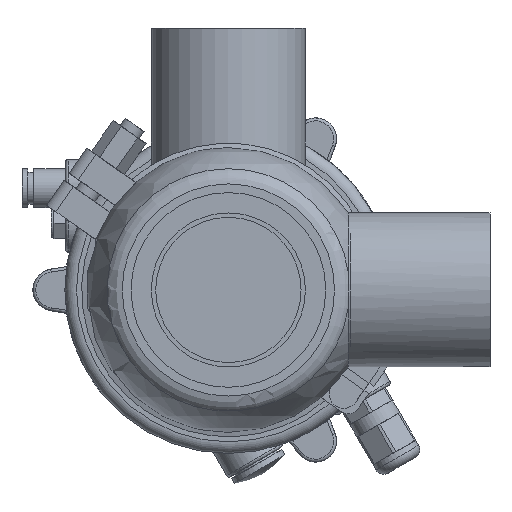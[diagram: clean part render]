
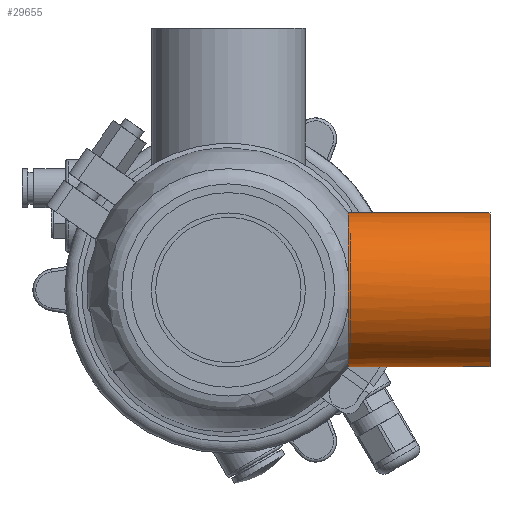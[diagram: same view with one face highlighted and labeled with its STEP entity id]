
A CAD part, front view. The second image highlights one B-rep face of the part: STEP entity #29655.
In plain terms, the highlighted cylindrical face has radius 26.5 mm (diameter 53 mm), a full revolution.
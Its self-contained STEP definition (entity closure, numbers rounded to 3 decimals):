
#2941 = EDGE_CURVE ( 'NONE', #27011, #25736, #60740, .T. ) ;
#3994 = CARTESIAN_POINT ( 'NONE',  ( 41.162, -26.42, -2.131 ) ) ;
#8731 = ORIENTED_EDGE ( 'NONE', *, *, #2941, .T. ) ;
#13058 = DIRECTION ( 'NONE',  ( 1., 0., 0. ) ) ;
#13508 = CARTESIAN_POINT ( 'NONE',  ( 41.148, -26.499, 1.097 ) ) ;
#14793 = EDGE_LOOP ( 'NONE', ( #42284 ) ) ;
#15158 = AXIS2_PLACEMENT_3D ( 'NONE', #42674, #57294, #23721 ) ;
#18135 = CARTESIAN_POINT ( 'NONE',  ( 41.216, -25.714, 6.407 ) ) ;
#18396 = CARTESIAN_POINT ( 'NONE',  ( 0., 0., 0. ) ) ;
#18683 = CYLINDRICAL_SURFACE ( 'NONE', #34804, 26.5 ) ;
#18991 = DIRECTION ( 'NONE',  ( -1., 0., 0. ) ) ;
#21158 = EDGE_CURVE ( 'NONE', #40013, #40013, #26054, .T. ) ;
#22440 = B_SPLINE_CURVE_WITH_KNOTS ( 'NONE', 3,
 ( #18135, #28375, #32721, #23671, #13508, #33325, #28062, #3994, #37356, #56321, #32415, #60383 ),
 .UNSPECIFIED., .F., .F.,
 ( 4, 2, 2, 2, 2, 4 ),
 ( 0., 0.003, 0.006, 0.008, 0.01, 0.013 ),
 .UNSPECIFIED. ) ;
#23671 = CARTESIAN_POINT ( 'NONE',  ( 41.162, -26.433, 2.166 ) ) ;
#23721 = DIRECTION ( 'NONE',  ( 0., 0., 1. ) ) ;
#25736 = VERTEX_POINT ( 'NONE', #46788 ) ;
#26054 = CIRCLE ( 'NONE', #15158, 26.5 ) ;
#27011 = VERTEX_POINT ( 'NONE', #32645 ) ;
#28062 = CARTESIAN_POINT ( 'NONE',  ( 41.151, -26.485, -1.052 ) ) ;
#28375 = CARTESIAN_POINT ( 'NONE',  ( 41.216, -25.976, 5.353 ) ) ;
#28929 = DIRECTION ( 'NONE',  ( 0., 0., 1. ) ) ;
#29655 = ADVANCED_FACE ( 'NONE', ( #41976, #60949 ), #18683, .T. ) ;
#32415 = CARTESIAN_POINT ( 'NONE',  ( 41.216, -25.976, -5.353 ) ) ;
#32645 = CARTESIAN_POINT ( 'NONE',  ( 41.216, -25.714, -6.407 ) ) ;
#32721 = CARTESIAN_POINT ( 'NONE',  ( 41.196, -26.172, 4.294 ) ) ;
#33325 = CARTESIAN_POINT ( 'NONE',  ( 41.148, -26.5, -0.514 ) ) ;
#34804 = AXIS2_PLACEMENT_3D ( 'NONE', #18396, #18991, #28929 ) ;
#34955 = AXIS2_PLACEMENT_3D ( 'NONE', #56189, #13058, #55879 ) ;
#37356 = CARTESIAN_POINT ( 'NONE',  ( 41.17, -26.37, -2.673 ) ) ;
#40013 = VERTEX_POINT ( 'NONE', #44365 ) ;
#41976 = FACE_OUTER_BOUND ( 'NONE', #44520, .T. ) ;
#42284 = ORIENTED_EDGE ( 'NONE', *, *, #21158, .T. ) ;
#42674 = CARTESIAN_POINT ( 'NONE',  ( 90., 0., 0. ) ) ;
#43349 = ORIENTED_EDGE ( 'NONE', *, *, #47681, .T. ) ;
#44365 = CARTESIAN_POINT ( 'NONE',  ( 90., 0., 26.5 ) ) ;
#44520 = EDGE_LOOP ( 'NONE', ( #8731, #43349 ) ) ;
#46788 = CARTESIAN_POINT ( 'NONE',  ( 41.216, -25.714, 6.407 ) ) ;
#47681 = EDGE_CURVE ( 'NONE', #25736, #27011, #22440, .T. ) ;
#55879 = DIRECTION ( 'NONE',  ( 0., 0., 1. ) ) ;
#56189 = CARTESIAN_POINT ( 'NONE',  ( 41.216, 0., 0. ) ) ;
#56321 = CARTESIAN_POINT ( 'NONE',  ( 41.196, -26.173, -4.288 ) ) ;
#57294 = DIRECTION ( 'NONE',  ( -1., 0., 0. ) ) ;
#60383 = CARTESIAN_POINT ( 'NONE',  ( 41.216, -25.714, -6.407 ) ) ;
#60740 = CIRCLE ( 'NONE', #34955, 26.5 ) ;
#60949 = FACE_OUTER_BOUND ( 'NONE', #14793, .T. ) ;
